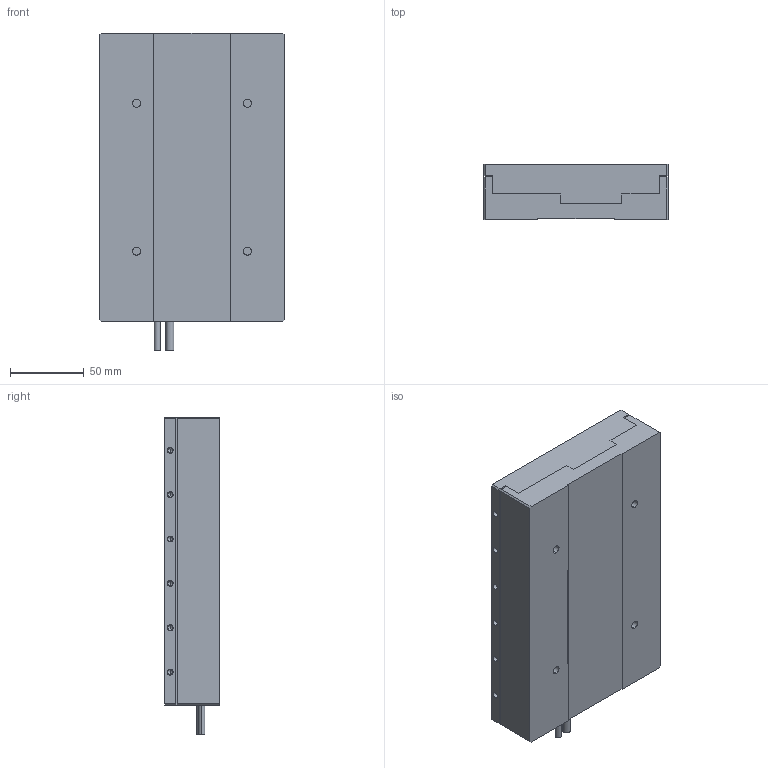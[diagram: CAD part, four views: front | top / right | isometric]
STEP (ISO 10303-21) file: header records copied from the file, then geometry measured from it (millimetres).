
FILE_DESCRIPTION (( 'STEP AP203' ), '1' );
FILE_NAME ('NPS-L-UB1-10x.STEP', '2019-09-11T05:12:55', ( '' ), ( '' ), 'SwSTEP 2.0', 'SolidWorks 2015', '' );
FILE_SCHEMA (( 'CONFIG_CONTROL_DESIGN' ));
Length unit declared in the file: millimetre
Products named in the file (3): NPS-L-UB1-10x_固定部; NPS-L-UB1-10x_移動部; NPS-L-UB1-10x
Assembly tree (2 placements, depth 2):
  NPS-L-UB1-10x
    NPS-L-UB1-10x_固定部
    NPS-L-UB1-10x_移動部
Bounding box: 125 x 37 x 215 mm (x, y, z)
Volume: 888021.9 mm3; surface area: 140412.3 mm2
Topology: 2 solids, 2 shells, 198 faces, 464 edges, 286 vertices
Faces by surface type: cylinder 96, plane 74, cone 28
Entity records: 5839 total; most frequent: DIRECTION 1036, CARTESIAN_POINT 943, ORIENTED_EDGE 872, EDGE_CURVE 436, AXIS2_PLACEMENT_3D 399, VERTEX_POINT 286, EDGE_LOOP 250, VECTOR 238
